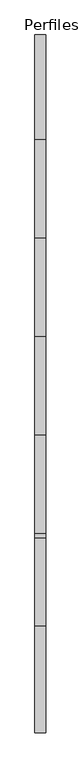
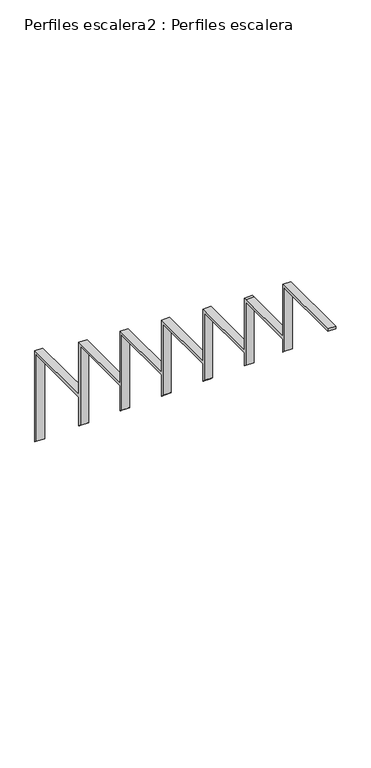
"""IFC4 building model written with IfcOpenShell, lengths in millimetres: beam geometry, Perfiles escalera2 : Perfiles escalera."""

from ifc_helpers import new_model, si_unit, frame, origin, place, context, project, spatial, polyline, outline, extrude, source, transform, mapped, element, save


def perfiles_escalera2_perfiles_escalera_c5a87b5c(model_context):
    return source(origin(), model_context, "Body", "SweptSolid", [
        extrude(outline(polyline([(4844.6072273, 1647.5083799), (4834.6072273, 1655.5611912), (4834.6072273, 1996.0), (4560.321513, 1996.0), (4560.321513, 1882.1676426), (4550.321513, 1890.6392019), (4550.321513, 2201.6), (4293.1786559, 2201.6), (4293.1786559, 2103.0700948), (4283.1786559, 2111.5416541), (4283.1786559, 2407.2), (4026.0357987, 2407.2), (4026.0357987, 2323.9725471), (4016.0357987, 2332.4441064), (4016.0357987, 2612.8), (3758.8929416, 2612.8), (3758.8929416, 2543.3465586), (3748.8929416, 2553.3465586), (3748.8929416, 2818.4), (3491.7500845, 2818.4), (3491.7500845, 2766.1961995), (3481.7500845, 2774.2490108), (3481.7500845, 3024.0), (3241.7500845, 3024.0), (3241.7500845, 2972.9230933), (3231.7500845, 2980.9759046), (3231.7500845, 3229.6), (2951.7500845, 3229.6), (2951.7500845, 3239.6), (3241.7500845, 3239.6), (3241.7500845, 3034.0), (3481.7500845, 3034.0), (3491.7500845, 3034.0), (3491.7500845, 2828.4), (3758.8929416, 2828.4), (3758.8929416, 2622.8), (4026.0357987, 2622.8), (4026.0357987, 2417.2), (4293.1786559, 2417.2), (4293.1786559, 2211.6), (4560.321513, 2211.6), (4560.321513, 2006.0), (4844.6072273, 2006.0), (4844.6072273, 1647.5083799)])), frame((6318.2897792, 0.0, 0.0), z_axis=(1.0, 0.0, 0.0), x_axis=(0.0, 1.0, 0.0)), (0.0, 0.0, 1.0), 30.0),
    ])


if __name__ == "__main__":
    model = new_model("IFC4")
    model_context = context("Model", 3, world=origin())
    ifc_project = project(units=[si_unit("LENGTHUNIT", "METRE", prefix="MILLI")], contexts=[model_context])
    site = spatial("IfcSite", under=ifc_project)
    building = spatial("IfcBuilding", under=site)
    placement = place(None, origin())
    perfiles_escalera2_perfiles_escalera_shape = perfiles_escalera2_perfiles_escalera_c5a87b5c(model_context)
    element("IfcBeam", 1, ObjectType="Perfiles escalera2 : Perfiles escalera", at=placement, inside=building, context=model_context, shape_type="MappedRepresentation", body=[
        mapped(perfiles_escalera2_perfiles_escalera_shape, transform((0.0, 0.0, 0.0), x_axis=(1.0, 0.0, 0.0), y_axis=(0.0, 1.0, 0.0), z_axis=(0.0, 0.0, 1.0))),
    ])
    save(model, "model.ifc")
